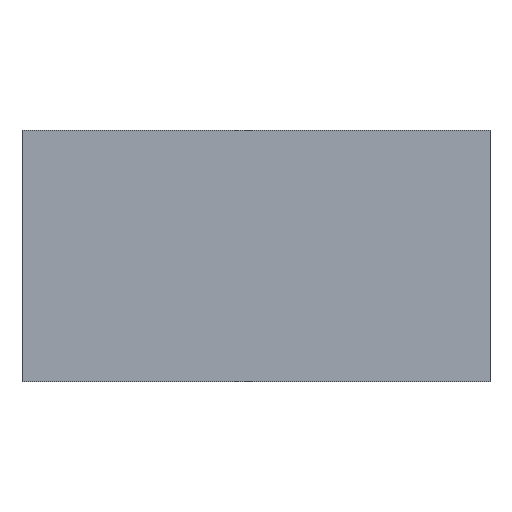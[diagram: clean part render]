
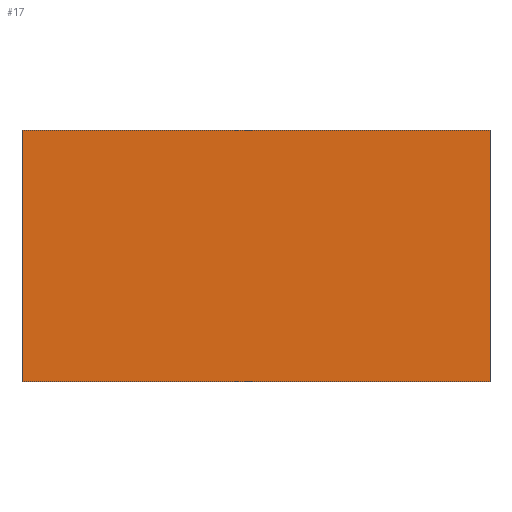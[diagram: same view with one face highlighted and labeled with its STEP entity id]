
A CAD part, top view. The second image highlights one B-rep face of the part: STEP entity #17.
In plain terms, the highlighted planar face has unit normal (0, 0, 1).
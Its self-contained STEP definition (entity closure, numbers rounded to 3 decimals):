
#17 = ADVANCED_FACE ( 'NONE', ( #167 ), #131, .F. ) ;
#23 = VERTEX_POINT ( 'NONE', #83 ) ;
#31 = LINE ( 'NONE', #100, #202 ) ;
#41 = DIRECTION ( 'NONE',  ( 0., 0., -1. ) ) ;
#46 = DIRECTION ( 'NONE',  ( -1., 0., 0. ) ) ;
#60 = EDGE_CURVE ( 'NONE', #207, #169, #31, .T. ) ;
#64 = CARTESIAN_POINT ( 'NONE',  ( -151.5, -81.5, 4. ) ) ;
#65 = EDGE_CURVE ( 'NONE', #169, #23, #99, .T. ) ;
#78 = EDGE_CURVE ( 'NONE', #23, #185, #138, .T. ) ;
#80 = CARTESIAN_POINT ( 'NONE',  ( 151.5, -81.5, 4. ) ) ;
#82 = LINE ( 'NONE', #159, #87 ) ;
#83 = CARTESIAN_POINT ( 'NONE',  ( -151.5, 81.5, 4. ) ) ;
#87 = VECTOR ( 'NONE', #194, 1000. ) ;
#91 = ORIENTED_EDGE ( 'NONE', *, *, #60, .T. ) ;
#92 = EDGE_LOOP ( 'NONE', ( #91, #149, #168, #228 ) ) ;
#97 = DIRECTION ( 'NONE',  ( 0., -1., 0. ) ) ;
#99 = LINE ( 'NONE', #116, #108 ) ;
#100 = CARTESIAN_POINT ( 'NONE',  ( 151.5, -81.5, 4. ) ) ;
#105 = EDGE_CURVE ( 'NONE', #185, #207, #82, .T. ) ;
#108 = VECTOR ( 'NONE', #46, 1000. ) ;
#110 = DIRECTION ( 'NONE',  ( -1., 0., 0. ) ) ;
#116 = CARTESIAN_POINT ( 'NONE',  ( -151.5, 81.5, 4. ) ) ;
#131 = PLANE ( 'NONE',  #163 ) ;
#138 = LINE ( 'NONE', #175, #153 ) ;
#149 = ORIENTED_EDGE ( 'NONE', *, *, #65, .T. ) ;
#153 = VECTOR ( 'NONE', #97, 1000. ) ;
#159 = CARTESIAN_POINT ( 'NONE',  ( -151.5, -81.5, 4. ) ) ;
#163 = AXIS2_PLACEMENT_3D ( 'NONE', #203, #41, #110 ) ;
#167 = FACE_OUTER_BOUND ( 'NONE', #92, .T. ) ;
#168 = ORIENTED_EDGE ( 'NONE', *, *, #78, .T. ) ;
#169 = VERTEX_POINT ( 'NONE', #187 ) ;
#173 = DIRECTION ( 'NONE',  ( 0., 1., 0. ) ) ;
#175 = CARTESIAN_POINT ( 'NONE',  ( -151.5, -81.5, 4. ) ) ;
#185 = VERTEX_POINT ( 'NONE', #64 ) ;
#187 = CARTESIAN_POINT ( 'NONE',  ( 151.5, 81.5, 4. ) ) ;
#194 = DIRECTION ( 'NONE',  ( 1., 0., 0. ) ) ;
#202 = VECTOR ( 'NONE', #173, 1000. ) ;
#203 = CARTESIAN_POINT ( 'NONE',  ( 0., 0., 4. ) ) ;
#207 = VERTEX_POINT ( 'NONE', #80 ) ;
#228 = ORIENTED_EDGE ( 'NONE', *, *, #105, .T. ) ;
